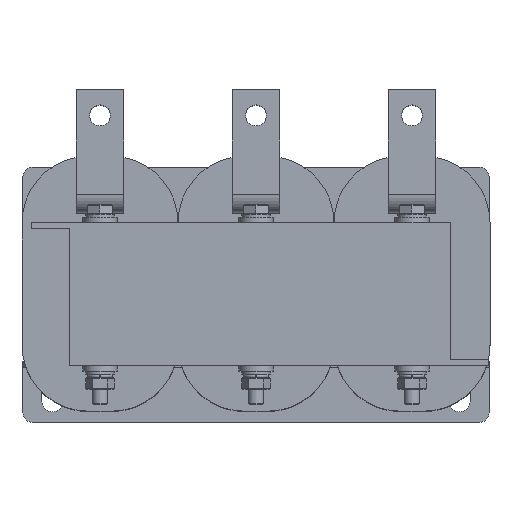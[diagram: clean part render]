
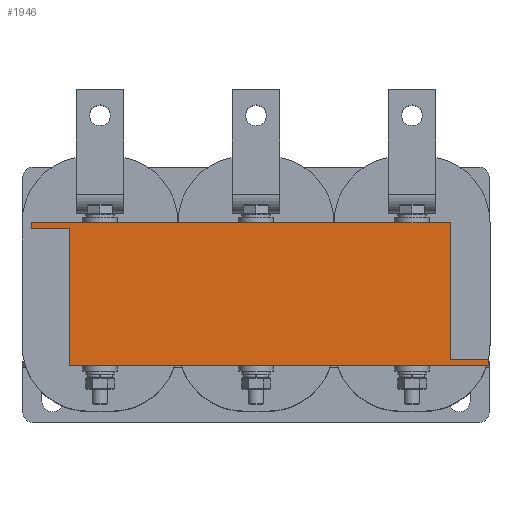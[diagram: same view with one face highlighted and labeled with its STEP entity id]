
A CAD part, top view. The second image highlights one B-rep face of the part: STEP entity #1946.
In plain terms, the highlighted planar face has unit normal (0, 0, 1).
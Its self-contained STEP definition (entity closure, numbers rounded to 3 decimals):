
#1946=ADVANCED_FACE('',(#2588),#2590,.T.);
#2588=FACE_BOUND('',#2589,.T.);
#2589=EDGE_LOOP('',(#3550,#3551,#3552,#3553,#3554,#3555,#3556,#3557));
#2590=PLANE('',#2591);
#2591=AXIS2_PLACEMENT_3D('',#2592,#2593,#2594);
#2592=CARTESIAN_POINT('',(0.,0.,42.));
#2593=DIRECTION('',(0.,0.,1.));
#2594=DIRECTION('',(-1.,0.,0.));
#3550=ORIENTED_EDGE('',*,*,#4032,.T.);
#3551=ORIENTED_EDGE('',*,*,#4051,.T.);
#3552=ORIENTED_EDGE('',*,*,#4021,.T.);
#3553=ORIENTED_EDGE('',*,*,#4052,.T.);
#3554=ORIENTED_EDGE('',*,*,#4013,.T.);
#3555=ORIENTED_EDGE('',*,*,#4053,.T.);
#3556=ORIENTED_EDGE('',*,*,#4002,.T.);
#3557=ORIENTED_EDGE('',*,*,#4050,.T.);
#4002=EDGE_CURVE('',#4428,#4426,#4429,.T.);
#4013=EDGE_CURVE('',#4450,#4448,#4451,.T.);
#4021=EDGE_CURVE('',#4466,#4464,#4467,.T.);
#4032=EDGE_CURVE('',#4488,#4486,#4489,.T.);
#4050=EDGE_CURVE('',#4426,#4488,#4511,.T.);
#4051=EDGE_CURVE('',#4486,#4466,#4512,.T.);
#4052=EDGE_CURVE('',#4464,#4450,#4513,.T.);
#4053=EDGE_CURVE('',#4448,#4428,#4514,.T.);
#4426=VERTEX_POINT('',#5290);
#4428=VERTEX_POINT('',#5294);
#4429=LINE('',#5295,#5296);
#4448=VERTEX_POINT('',#5339);
#4450=VERTEX_POINT('',#5343);
#4451=LINE('',#5344,#5345);
#4464=VERTEX_POINT('',#5373);
#4466=VERTEX_POINT('',#5377);
#4467=LINE('',#5378,#5379);
#4486=VERTEX_POINT('',#5422);
#4488=VERTEX_POINT('',#5426);
#4489=LINE('',#5427,#5428);
#4511=LINE('',#5487,#5488);
#4512=LINE('',#5490,#5491);
#4513=LINE('',#5493,#5494);
#4514=LINE('',#5496,#5497);
#5290=CARTESIAN_POINT('',(-120.,37.5,42.));
#5294=CARTESIAN_POINT('',(100.,37.5,42.));
#5295=CARTESIAN_POINT('',(100.,37.5,42.));
#5296=VECTOR('',#5297,1.);
#5297=DIRECTION('',(-1.,0.,0.));
#5339=CARTESIAN_POINT('',(100.,-34.5,42.));
#5343=CARTESIAN_POINT('',(120.,-34.5,42.));
#5344=CARTESIAN_POINT('',(120.,-34.5,42.));
#5345=VECTOR('',#5346,1.);
#5346=DIRECTION('',(-1.,0.,0.));
#5373=CARTESIAN_POINT('',(120.,-37.5,42.));
#5377=CARTESIAN_POINT('',(-100.,-37.5,42.));
#5378=CARTESIAN_POINT('',(-100.,-37.5,42.));
#5379=VECTOR('',#5380,1.);
#5380=DIRECTION('',(1.,0.,0.));
#5422=CARTESIAN_POINT('',(-100.,34.5,42.));
#5426=CARTESIAN_POINT('',(-120.,34.5,42.));
#5427=CARTESIAN_POINT('',(-120.,34.5,42.));
#5428=VECTOR('',#5429,1.);
#5429=DIRECTION('',(1.,0.,0.));
#5487=CARTESIAN_POINT('',(-120.,37.5,42.));
#5488=VECTOR('',#5489,1.);
#5489=DIRECTION('',(0.,-1.,0.));
#5490=CARTESIAN_POINT('',(-100.,34.5,42.));
#5491=VECTOR('',#5492,1.);
#5492=DIRECTION('',(0.,-1.,0.));
#5493=CARTESIAN_POINT('',(120.,-37.5,42.));
#5494=VECTOR('',#5495,1.);
#5495=DIRECTION('',(0.,1.,0.));
#5496=CARTESIAN_POINT('',(100.,-34.5,42.));
#5497=VECTOR('',#5498,1.);
#5498=DIRECTION('',(0.,1.,0.));
